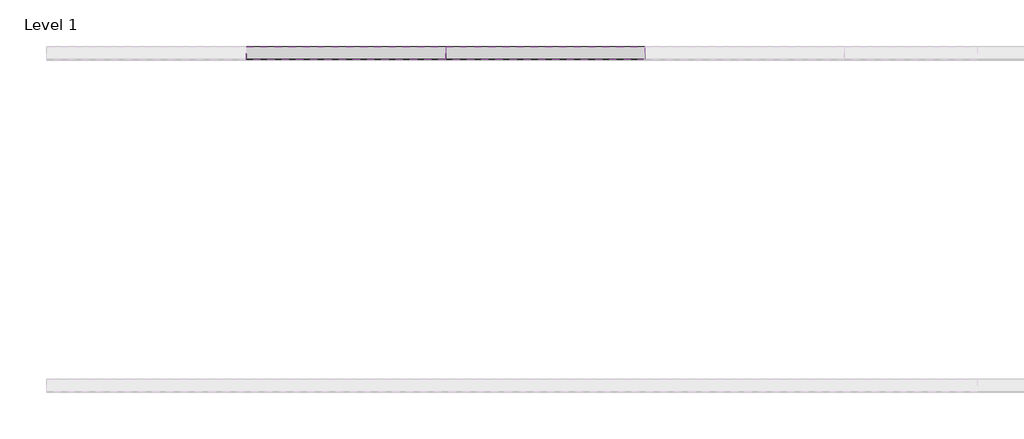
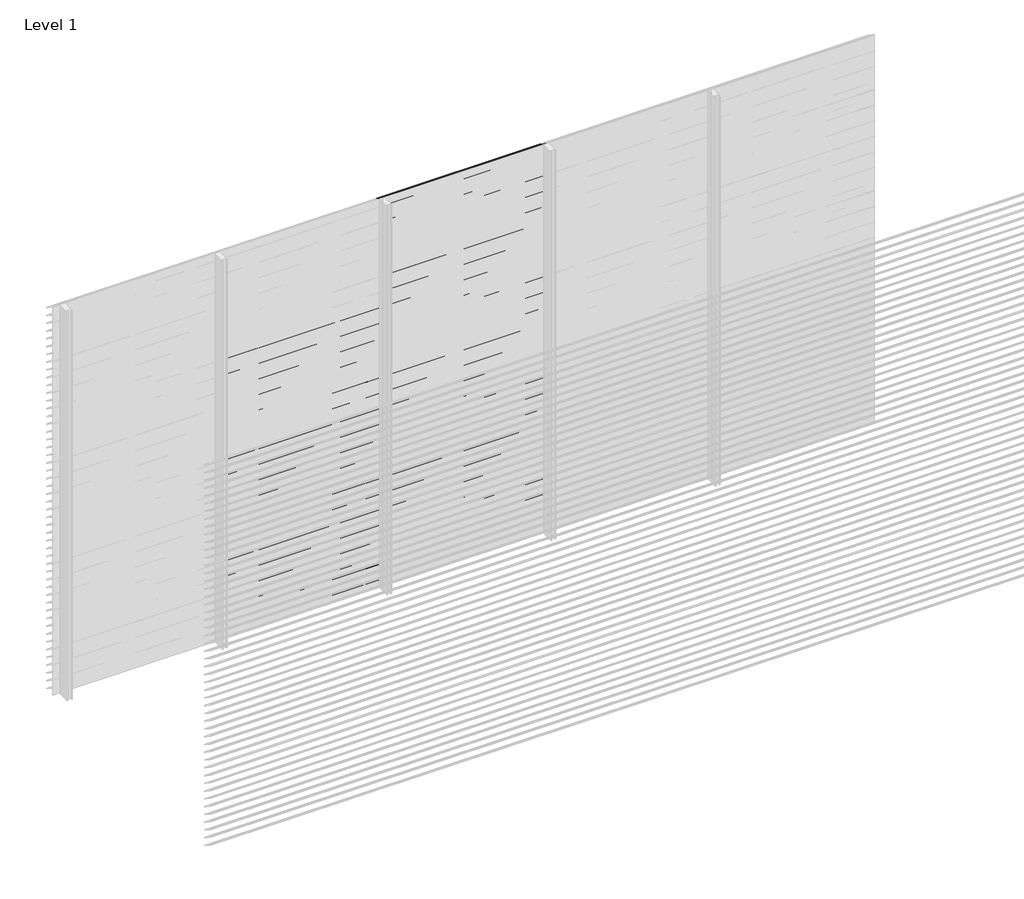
# One storey, part 79 of 153: 84 proxies.
"""IFC4 building model written with IfcOpenShell, lengths in millimetres."""

import ifcopenshell
import ifcopenshell.guid

model = None  # the IFC model being written
_history = None  # IfcOwnerHistory: only IFC2X3 demands one
_inside = {}  # id of a spatial element -> (the spatial element, [elements in it])
_under = {}  # id of a project, library or spatial element -> (it, [spatial elements below it])
_declared = {}  # id of a project -> (the project, [libraries it declares])
_typed = {}  # id of a type object -> (the type object, [elements of that type])
_made_of = {}  # id of a material, layer set ... -> (it, [elements and type objects made of it])


def new_model(schema):
    """Start an empty IFC model of exactly this schema.

    Asked for "IFC4X3", IfcOpenShell would pick the latest addendum, in which some entities
    have other attributes; the version numbers below select the first issue.
    IFC2X3 requires an IfcOwnerHistory on every rooted entity: one is made here for all.
    """
    global model, _history
    if schema == "IFC4X3":
        model = ifcopenshell.file(schema_version=(4, 3, 0, 0))
    else:
        model = ifcopenshell.file(schema=schema)
    _inside.clear()
    _under.clear()
    _declared.clear()
    _typed.clear()
    _made_of.clear()
    _history = None
    if model.schema == "IFC2X3":
        org = make("IfcOrganization", Name="unknown")
        user = make(
            "IfcPersonAndOrganization",
            ThePerson=make("IfcPerson", FamilyName="unknown"),
            TheOrganization=org,
        )
        app = make(
            "IfcApplication",
            ApplicationDeveloper=org,
            Version="unknown",
            ApplicationFullName="unknown",
            ApplicationIdentifier="unknown",
        )
        _history = make(
            "IfcOwnerHistory",
            OwningUser=user,
            OwningApplication=app,
            ChangeAction="ADDED",
            CreationDate=0,
        )
    return model


def make(cls, **values):
    """One entity of the class cls with the attributes given. An attribute that is None is left unset."""
    return model.create_entity(
        cls, **{name: value for name, value in values.items() if value is not None}
    )


def rooted(cls, **values):
    """An entity with a GlobalId (a new one), such as an element, a storey or a relation."""
    return make(cls, GlobalId=ifcopenshell.guid.new(), OwnerHistory=_history, **values)


def si_unit(unit_type, name, prefix=None):
    """IfcSIUnit, for example si_unit("LENGTHUNIT", "METRE", prefix="MILLI")."""
    return make("IfcSIUnit", UnitType=unit_type, Prefix=prefix, Name=name)


def assignment(units):
    """IfcUnitAssignment: the units of a project."""
    return None if units is None else make("IfcUnitAssignment", Units=units)


def point(xyz):
    """IfcCartesianPoint."""
    return None if xyz is None else make("IfcCartesianPoint", Coordinates=xyz)


def direction(xyz):
    """IfcDirection."""
    return None if xyz is None else make("IfcDirection", DirectionRatios=xyz)


def frame(location, z_axis=None, x_axis=None):
    """IfcAxis2Placement3D, a coordinate frame: its origin and axes. An axis left out is left unset."""
    return make(
        "IfcAxis2Placement3D",
        Location=point(location),
        Axis=direction(z_axis),
        RefDirection=direction(x_axis),
    )


def origin():
    """The frame at (0, 0, 0) with its axes left unset."""
    return frame((0.0, 0.0, 0.0))


def place(relative_to, where):
    """IfcLocalPlacement: puts the frame where relative to a parent placement (None: the world)."""
    return make(
        "IfcLocalPlacement", PlacementRelTo=relative_to, RelativePlacement=where
    )


def context(
    kind, dimensions, precision=None, world=None, true_north=None, identifier=None
):
    """IfcGeometricRepresentationContext, for example the 3D "Model" context."""
    return make(
        "IfcGeometricRepresentationContext",
        ContextIdentifier=identifier,
        ContextType=kind,
        CoordinateSpaceDimension=dimensions,
        Precision=precision,
        WorldCoordinateSystem=world,
        TrueNorth=true_north,
    )


def project(units=None, contexts=None):
    """IfcProject with its units and contexts."""
    return rooted(
        "IfcProject",
        Name="project",
        RepresentationContexts=contexts,
        UnitsInContext=assignment(units),
    )


def spatial(cls, under=None, at=None, **own):
    """A site, building, storey or space (cls), placed at a placement, below another one or the project."""
    s = rooted(cls, ObjectPlacement=at, **own)
    if under is not None:
        _under.setdefault(under.id(), (under, []))[1].append(s)
    return s


def polyline(points):
    """IfcPolyline through the points."""
    return make("IfcPolyline", Points=[point(p) for p in points])


def outline(outer, holes=None, kind="AREA"):
    """IfcArbitraryClosedProfileDef: a profile drawn as a closed curve; with holes, ...WithVoids."""
    if holes is None:
        return make("IfcArbitraryClosedProfileDef", ProfileType=kind, OuterCurve=outer)
    return make(
        "IfcArbitraryProfileDefWithVoids",
        ProfileType=kind,
        OuterCurve=outer,
        InnerCurves=holes,
    )


def extrude(swept, where, along, depth):
    """IfcExtrudedAreaSolid: the profile swept, set in the frame where, extruded along a direction by depth."""
    return make(
        "IfcExtrudedAreaSolid",
        SweptArea=swept,
        Position=where,
        ExtrudedDirection=direction(along),
        Depth=depth,
    )


def shape(context_of_items, identifier, shape_type, items):
    """IfcShapeRepresentation: the items that make up one representation, for example the "Body"."""
    return make(
        "IfcShapeRepresentation",
        ContextOfItems=context_of_items,
        RepresentationIdentifier=identifier,
        RepresentationType=shape_type,
        Items=items,
    )


def made_of(thing, what):
    """Note that an element or type object is made of a material, layer set ...; save() writes the relation."""
    if what is not None:
        _made_of.setdefault(what.id(), (what, []))[1].append(thing)
    return thing


def element(
    cls,
    number,
    at=None,
    inside=None,
    cuts=None,
    type_object=None,
    material=None,
    context=None,
    identifier="Body",
    shape_type=None,
    held_by="IfcProductDefinitionShape",
    body=None,
    shapes=None,
    **own,
):
    """One element of the class cls, such as IfcWall. Its Tag is "e" and its number.

    at: its placement. inside: the storey or other place that contains it. cuts: it is an
    opening in that element (IfcRelVoidsElement). A single representation is given by context,
    identifier, shape_type and body (its items); several are given by shapes. held_by: the class
    of the entity that holds the representations. save() writes the other relations.
    """
    e = rooted(cls, Tag="e%d" % number, ObjectPlacement=at, **own)
    if body is not None:
        shapes = [shape(context, identifier, shape_type, body)]
    if shapes is not None:
        e.Representation = make(held_by, Representations=shapes)
    if inside is not None:
        _inside.setdefault(inside.id(), (inside, []))[1].append(e)
    if cuts is not None:
        rooted(
            "IfcRelVoidsElement", RelatingBuildingElement=cuts, RelatedOpeningElement=e
        )
    if type_object is not None:
        _typed.setdefault(type_object.id(), (type_object, []))[1].append(e)
    return made_of(e, material)


def aggregate(whole, parts):
    """IfcRelAggregates: a whole, such as a stair, and the parts it consists of."""
    return rooted("IfcRelAggregates", RelatingObject=whole, RelatedObjects=parts)


def save(model, path):
    """Write the relations noted so far, then the file.

    IfcRelAggregates (storeys below a building ...), IfcRelContainedInSpatialStructure (elements
    in a storey), IfcRelDefinesByType, IfcRelAssociatesMaterial and IfcRelDeclares: one each for
    every whole, place, type object, material and project.
    """
    for whole, parts in _under.values():
        aggregate(whole, parts)
    for where, things in _inside.values():
        rooted(
            "IfcRelContainedInSpatialStructure",
            RelatedElements=things,
            RelatingStructure=where,
        )
    for kind, things in _typed.values():
        rooted("IfcRelDefinesByType", RelatedObjects=things, RelatingType=kind)
    for what, things in _made_of.values():
        rooted("IfcRelAssociatesMaterial", RelatedObjects=things, RelatingMaterial=what)
    for by, libraries in _declared.values():
        rooted("IfcRelDeclares", RelatingContext=by, RelatedDefinitions=libraries)
    model.write(path)


model = new_model("IFC4")

# Units and contexts
model_context = context("Model", 3, world=origin())
ifc_project = project(units=[si_unit("LENGTHUNIT", "METRE", prefix="MILLI")], contexts=[model_context])

# Site, building, storey
site = spatial("IfcSite", under=ifc_project)
building = spatial("IfcBuilding", under=site)
storey = spatial("IfcBuildingStorey", under=building, Name="Level 1", Elevation=0.0)

# Proxies
placement = place(None, origin())
element("IfcBuildingElementProxy", 1, Name="Wall Sweeps", at=placement, inside=storey, context=model_context, shape_type="SweptSolid", body=[
    extrude(outline(polyline([(51561.0540136, 2166.0), (51561.0540136, 2160.0), (51559.8040136, 2160.7216933), (51559.8040136, 2165.2538091), (51483.0540136, 2213.9915103), (51483.0540136, 2220.0), (51484.3040136, 2220.0), (51484.3040136, 2214.7377012), (51561.0540136, 2166.0)])), frame((1666.6208099, 0.0, 0.0), z_axis=(1.0, 0.0, 0.0), x_axis=(0.0, 1.0, 0.0)), (0.0, 0.0, 1.0), 1199.9999999),
])
element("IfcBuildingElementProxy", 2, Name="Wall Sweeps", at=placement, inside=storey, context=model_context, shape_type="SweptSolid", body=[
    extrude(outline(polyline([(51561.0540136, 2106.0), (51561.0540136, 2100.0), (51559.8040136, 2100.7216933), (51559.8040136, 2105.2538091), (51483.0540136, 2153.9915103), (51483.0540136, 2160.0), (51484.3040136, 2160.0), (51484.3040136, 2154.7377012), (51561.0540136, 2106.0)])), frame((1666.6208099, 0.0, 0.0), z_axis=(1.0, 0.0, 0.0), x_axis=(0.0, 1.0, 0.0)), (0.0, 0.0, 1.0), 1199.9999999),
])
element("IfcBuildingElementProxy", 3, Name="Wall Sweeps", at=placement, inside=storey, context=model_context, shape_type="SweptSolid", body=[
    extrude(outline(polyline([(51561.0540136, 2046.0), (51561.0540136, 2040.0), (51559.8040136, 2040.7216933), (51559.8040136, 2045.2538091), (51483.0540136, 2093.9915103), (51483.0540136, 2100.0), (51484.3040136, 2100.0), (51484.3040136, 2094.7377012), (51561.0540136, 2046.0)])), frame((1666.6208099, 0.0, 0.0), z_axis=(1.0, 0.0, 0.0), x_axis=(0.0, 1.0, 0.0)), (0.0, 0.0, 1.0), 1199.9999999),
])
element("IfcBuildingElementProxy", 4, Name="Wall Sweeps", at=placement, inside=storey, context=model_context, shape_type="SweptSolid", body=[
    extrude(outline(polyline([(51561.0540136, 1986.0), (51561.0540136, 1980.0), (51559.8040136, 1980.7216933), (51559.8040136, 1985.2538091), (51483.0540136, 2033.9915103), (51483.0540136, 2040.0), (51484.3040136, 2040.0), (51484.3040136, 2034.7377012), (51561.0540136, 1986.0)])), frame((1666.6208099, 0.0, 0.0), z_axis=(1.0, 0.0, 0.0), x_axis=(0.0, 1.0, 0.0)), (0.0, 0.0, 1.0), 1199.9999999),
])
element("IfcBuildingElementProxy", 5, Name="Wall Sweeps", at=placement, inside=storey, context=model_context, shape_type="SweptSolid", body=[
    extrude(outline(polyline([(51561.0540136, 1926.0), (51561.0540136, 1920.0), (51559.8040136, 1920.7216933), (51559.8040136, 1925.2538091), (51483.0540136, 1973.9915103), (51483.0540136, 1980.0), (51484.3040136, 1980.0), (51484.3040136, 1974.7377012), (51561.0540136, 1926.0)])), frame((1666.6208099, 0.0, 0.0), z_axis=(1.0, 0.0, 0.0), x_axis=(0.0, 1.0, 0.0)), (0.0, 0.0, 1.0), 1199.9999999),
])
element("IfcBuildingElementProxy", 6, Name="Wall Sweeps", at=placement, inside=storey, context=model_context, shape_type="SweptSolid", body=[
    extrude(outline(polyline([(51561.0540136, 1866.0), (51561.0540136, 1860.0), (51559.8040136, 1860.7216933), (51559.8040136, 1865.2538091), (51483.0540136, 1913.9915103), (51483.0540136, 1920.0), (51484.3040136, 1920.0), (51484.3040136, 1914.7377012), (51561.0540136, 1866.0)])), frame((1666.6208099, 0.0, 0.0), z_axis=(1.0, 0.0, 0.0), x_axis=(0.0, 1.0, 0.0)), (0.0, 0.0, 1.0), 1199.9999999),
])
element("IfcBuildingElementProxy", 7, Name="Wall Sweeps", at=placement, inside=storey, context=model_context, shape_type="SweptSolid", body=[
    extrude(outline(polyline([(51561.0540136, 1806.0), (51561.0540136, 1800.0), (51559.8040136, 1800.7216933), (51559.8040136, 1805.2538091), (51483.0540136, 1853.9915103), (51483.0540136, 1860.0), (51484.3040136, 1860.0), (51484.3040136, 1854.7377012), (51561.0540136, 1806.0)])), frame((1666.6208099, 0.0, 0.0), z_axis=(1.0, 0.0, 0.0), x_axis=(0.0, 1.0, 0.0)), (0.0, 0.0, 1.0), 1199.9999999),
])
element("IfcBuildingElementProxy", 8, Name="Wall Sweeps", at=placement, inside=storey, context=model_context, shape_type="SweptSolid", body=[
    extrude(outline(polyline([(51561.0540136, 1746.0), (51561.0540136, 1740.0), (51559.8040136, 1740.7216933), (51559.8040136, 1745.2538091), (51483.0540136, 1793.9915103), (51483.0540136, 1800.0), (51484.3040136, 1800.0), (51484.3040136, 1794.7377012), (51561.0540136, 1746.0)])), frame((1666.6208099, 0.0, 0.0), z_axis=(1.0, 0.0, 0.0), x_axis=(0.0, 1.0, 0.0)), (0.0, 0.0, 1.0), 1199.9999999),
])
element("IfcBuildingElementProxy", 9, Name="Wall Sweeps", at=placement, inside=storey, context=model_context, shape_type="SweptSolid", body=[
    extrude(outline(polyline([(51561.0540136, 1686.0), (51561.0540136, 1680.0), (51559.8040136, 1680.7216933), (51559.8040136, 1685.2538091), (51483.0540136, 1733.9915103), (51483.0540136, 1740.0), (51484.3040136, 1740.0), (51484.3040136, 1734.7377012), (51561.0540136, 1686.0)])), frame((1666.6208099, 0.0, 0.0), z_axis=(1.0, 0.0, 0.0), x_axis=(0.0, 1.0, 0.0)), (0.0, 0.0, 1.0), 1199.9999999),
])
element("IfcBuildingElementProxy", 10, Name="Wall Sweeps", at=placement, inside=storey, context=model_context, shape_type="SweptSolid", body=[
    extrude(outline(polyline([(51561.0540136, 1626.0), (51561.0540136, 1620.0), (51559.8040136, 1620.7216933), (51559.8040136, 1625.2538091), (51483.0540136, 1673.9915103), (51483.0540136, 1680.0), (51484.3040136, 1680.0), (51484.3040136, 1674.7377012), (51561.0540136, 1626.0)])), frame((1666.6208099, 0.0, 0.0), z_axis=(1.0, 0.0, 0.0), x_axis=(0.0, 1.0, 0.0)), (0.0, 0.0, 1.0), 1199.9999999),
])
element("IfcBuildingElementProxy", 11, Name="Wall Sweeps", at=placement, inside=storey, context=model_context, shape_type="SweptSolid", body=[
    extrude(outline(polyline([(51561.0540136, 1566.0), (51561.0540136, 1560.0), (51559.8040136, 1560.7216933), (51559.8040136, 1565.2538091), (51483.0540136, 1613.9915103), (51483.0540136, 1620.0), (51484.3040136, 1620.0), (51484.3040136, 1614.7377012), (51561.0540136, 1566.0)])), frame((1666.6208099, 0.0, 0.0), z_axis=(1.0, 0.0, 0.0), x_axis=(0.0, 1.0, 0.0)), (0.0, 0.0, 1.0), 1199.9999999),
])
element("IfcBuildingElementProxy", 12, Name="Wall Sweeps", at=placement, inside=storey, context=model_context, shape_type="SweptSolid", body=[
    extrude(outline(polyline([(51561.0540136, 1506.0), (51561.0540136, 1500.0), (51559.8040136, 1500.7216933), (51559.8040136, 1505.2538091), (51483.0540136, 1553.9915103), (51483.0540136, 1560.0), (51484.3040136, 1560.0), (51484.3040136, 1554.7377012), (51561.0540136, 1506.0)])), frame((1666.6208099, 0.0, 0.0), z_axis=(1.0, 0.0, 0.0), x_axis=(0.0, 1.0, 0.0)), (0.0, 0.0, 1.0), 1199.9999999),
])
element("IfcBuildingElementProxy", 13, Name="Wall Sweeps", at=placement, inside=storey, context=model_context, shape_type="SweptSolid", body=[
    extrude(outline(polyline([(51561.0540136, 1446.0), (51561.0540136, 1440.0), (51559.8040136, 1440.7216933), (51559.8040136, 1445.2538091), (51483.0540136, 1493.9915103), (51483.0540136, 1500.0), (51484.3040136, 1500.0), (51484.3040136, 1494.7377012), (51561.0540136, 1446.0)])), frame((1666.6208099, 0.0, 0.0), z_axis=(1.0, 0.0, 0.0), x_axis=(0.0, 1.0, 0.0)), (0.0, 0.0, 1.0), 1199.9999999),
])
element("IfcBuildingElementProxy", 14, Name="Wall Sweeps", at=placement, inside=storey, context=model_context, shape_type="SweptSolid", body=[
    extrude(outline(polyline([(51561.0540136, 1386.0), (51561.0540136, 1380.0), (51559.8040136, 1380.7216933), (51559.8040136, 1385.2538091), (51483.0540136, 1433.9915103), (51483.0540136, 1440.0), (51484.3040136, 1440.0), (51484.3040136, 1434.7377012), (51561.0540136, 1386.0)])), frame((1666.6208099, 0.0, 0.0), z_axis=(1.0, 0.0, 0.0), x_axis=(0.0, 1.0, 0.0)), (0.0, 0.0, 1.0), 1199.9999999),
])
element("IfcBuildingElementProxy", 15, Name="Wall Sweeps", at=placement, inside=storey, context=model_context, shape_type="SweptSolid", body=[
    extrude(outline(polyline([(51561.0540136, 1326.0), (51561.0540136, 1320.0), (51559.8040136, 1320.7216933), (51559.8040136, 1325.2538091), (51483.0540136, 1373.9915103), (51483.0540136, 1380.0), (51484.3040136, 1380.0), (51484.3040136, 1374.7377012), (51561.0540136, 1326.0)])), frame((1666.6208099, 0.0, 0.0), z_axis=(1.0, 0.0, 0.0), x_axis=(0.0, 1.0, 0.0)), (0.0, 0.0, 1.0), 1199.9999999),
])
element("IfcBuildingElementProxy", 16, Name="Wall Sweeps", at=placement, inside=storey, context=model_context, shape_type="SweptSolid", body=[
    extrude(outline(polyline([(51561.0540136, 1266.0), (51561.0540136, 1260.0), (51559.8040136, 1260.7216933), (51559.8040136, 1265.2538091), (51483.0540136, 1313.9915103), (51483.0540136, 1320.0), (51484.3040136, 1320.0), (51484.3040136, 1314.7377012), (51561.0540136, 1266.0)])), frame((1666.6208099, 0.0, 0.0), z_axis=(1.0, 0.0, 0.0), x_axis=(0.0, 1.0, 0.0)), (0.0, 0.0, 1.0), 1199.9999999),
])
element("IfcBuildingElementProxy", 17, Name="Wall Sweeps", at=placement, inside=storey, context=model_context, shape_type="SweptSolid", body=[
    extrude(outline(polyline([(51561.0540136, 1206.0), (51561.0540136, 1200.0), (51559.8040136, 1200.7216933), (51559.8040136, 1205.2538091), (51483.0540136, 1253.9915103), (51483.0540136, 1260.0), (51484.3040136, 1260.0), (51484.3040136, 1254.7377012), (51561.0540136, 1206.0)])), frame((1666.6208099, 0.0, 0.0), z_axis=(1.0, 0.0, 0.0), x_axis=(0.0, 1.0, 0.0)), (0.0, 0.0, 1.0), 1199.9999999),
])
element("IfcBuildingElementProxy", 18, Name="Wall Sweeps", at=placement, inside=storey, context=model_context, shape_type="SweptSolid", body=[
    extrude(outline(polyline([(51561.0540136, 1146.0), (51561.0540136, 1140.0), (51559.8040136, 1140.7216933), (51559.8040136, 1145.2538091), (51483.0540136, 1193.9915103), (51483.0540136, 1200.0), (51484.3040136, 1200.0), (51484.3040136, 1194.7377012), (51561.0540136, 1146.0)])), frame((1666.6208099, 0.0, 0.0), z_axis=(1.0, 0.0, 0.0), x_axis=(0.0, 1.0, 0.0)), (0.0, 0.0, 1.0), 1199.9999999),
])
element("IfcBuildingElementProxy", 19, Name="Wall Sweeps", at=placement, inside=storey, context=model_context, shape_type="SweptSolid", body=[
    extrude(outline(polyline([(51561.0540136, 1086.0), (51561.0540136, 1080.0), (51559.8040136, 1080.7216933), (51559.8040136, 1085.2538091), (51483.0540136, 1133.9915103), (51483.0540136, 1140.0), (51484.3040136, 1140.0), (51484.3040136, 1134.7377012), (51561.0540136, 1086.0)])), frame((1666.6208099, 0.0, 0.0), z_axis=(1.0, 0.0, 0.0), x_axis=(0.0, 1.0, 0.0)), (0.0, 0.0, 1.0), 1199.9999999),
])
element("IfcBuildingElementProxy", 20, Name="Wall Sweeps", at=placement, inside=storey, context=model_context, shape_type="SweptSolid", body=[
    extrude(outline(polyline([(51561.0540136, 1026.0), (51561.0540136, 1020.0), (51559.8040136, 1020.7216933), (51559.8040136, 1025.2538091), (51483.0540136, 1073.9915103), (51483.0540136, 1080.0), (51484.3040136, 1080.0), (51484.3040136, 1074.7377012), (51561.0540136, 1026.0)])), frame((1666.6208099, 0.0, 0.0), z_axis=(1.0, 0.0, 0.0), x_axis=(0.0, 1.0, 0.0)), (0.0, 0.0, 1.0), 1199.9999999),
])
element("IfcBuildingElementProxy", 21, Name="Wall Sweeps", at=placement, inside=storey, context=model_context, shape_type="SweptSolid", body=[
    extrude(outline(polyline([(51561.0540136, 966.0), (51561.0540136, 960.0), (51559.8040136, 960.7216933), (51559.8040136, 965.2538091), (51483.0540136, 1013.9915103), (51483.0540136, 1020.0), (51484.3040136, 1020.0), (51484.3040136, 1014.7377012), (51561.0540136, 966.0)])), frame((1666.6208099, 0.0, 0.0), z_axis=(1.0, 0.0, 0.0), x_axis=(0.0, 1.0, 0.0)), (0.0, 0.0, 1.0), 1199.9999999),
])
element("IfcBuildingElementProxy", 22, Name="Wall Sweeps", at=placement, inside=storey, context=model_context, shape_type="SweptSolid", body=[
    extrude(outline(polyline([(51561.0540136, 906.0), (51561.0540136, 900.0), (51559.8040136, 900.7216933), (51559.8040136, 905.2538091), (51483.0540136, 953.9915103), (51483.0540136, 960.0), (51484.3040136, 960.0), (51484.3040136, 954.7377012), (51561.0540136, 906.0)])), frame((1666.6208099, 0.0, 0.0), z_axis=(1.0, 0.0, 0.0), x_axis=(0.0, 1.0, 0.0)), (0.0, 0.0, 1.0), 1199.9999999),
])
element("IfcBuildingElementProxy", 23, Name="Wall Sweeps", at=placement, inside=storey, context=model_context, shape_type="SweptSolid", body=[
    extrude(outline(polyline([(51561.0540136, 846.0), (51561.0540136, 840.0), (51559.8040136, 840.7216933), (51559.8040136, 845.2538091), (51483.0540136, 893.9915103), (51483.0540136, 900.0), (51484.3040136, 900.0), (51484.3040136, 894.7377012), (51561.0540136, 846.0)])), frame((1666.6208099, 0.0, 0.0), z_axis=(1.0, 0.0, 0.0), x_axis=(0.0, 1.0, 0.0)), (0.0, 0.0, 1.0), 1199.9999999),
])
element("IfcBuildingElementProxy", 24, Name="Wall Sweeps", at=placement, inside=storey, context=model_context, shape_type="SweptSolid", body=[
    extrude(outline(polyline([(51561.0540136, 786.0), (51561.0540136, 780.0), (51559.8040136, 780.7216933), (51559.8040136, 785.2538091), (51483.0540136, 833.9915103), (51483.0540136, 840.0), (51484.3040136, 840.0), (51484.3040136, 834.7377012), (51561.0540136, 786.0)])), frame((1666.6208099, 0.0, 0.0), z_axis=(1.0, 0.0, 0.0), x_axis=(0.0, 1.0, 0.0)), (0.0, 0.0, 1.0), 1199.9999999),
])
element("IfcBuildingElementProxy", 25, Name="Wall Sweeps", at=placement, inside=storey, context=model_context, shape_type="SweptSolid", body=[
    extrude(outline(polyline([(51561.0540136, 726.0), (51561.0540136, 720.0), (51559.8040136, 720.7216933), (51559.8040136, 725.2538091), (51483.0540136, 773.9915103), (51483.0540136, 780.0), (51484.3040136, 780.0), (51484.3040136, 774.7377012), (51561.0540136, 726.0)])), frame((1666.6208099, 0.0, 0.0), z_axis=(1.0, 0.0, 0.0), x_axis=(0.0, 1.0, 0.0)), (0.0, 0.0, 1.0), 1199.9999999),
])
element("IfcBuildingElementProxy", 26, Name="Wall Sweeps", at=placement, inside=storey, context=model_context, shape_type="SweptSolid", body=[
    extrude(outline(polyline([(51561.0540136, 666.0), (51561.0540136, 660.0), (51559.8040136, 660.7216933), (51559.8040136, 665.2538091), (51483.0540136, 713.9915103), (51483.0540136, 720.0), (51484.3040136, 720.0), (51484.3040136, 714.7377012), (51561.0540136, 666.0)])), frame((1666.6208099, 0.0, 0.0), z_axis=(1.0, 0.0, 0.0), x_axis=(0.0, 1.0, 0.0)), (0.0, 0.0, 1.0), 1199.9999999),
])
element("IfcBuildingElementProxy", 27, Name="Wall Sweeps", at=placement, inside=storey, context=model_context, shape_type="SweptSolid", body=[
    extrude(outline(polyline([(51561.0540136, 606.0), (51561.0540136, 600.0), (51559.8040136, 600.7216933), (51559.8040136, 605.2538091), (51483.0540136, 653.9915103), (51483.0540136, 660.0), (51484.3040136, 660.0), (51484.3040136, 654.7377012), (51561.0540136, 606.0)])), frame((1666.6208099, 0.0, 0.0), z_axis=(1.0, 0.0, 0.0), x_axis=(0.0, 1.0, 0.0)), (0.0, 0.0, 1.0), 1199.9999999),
])
element("IfcBuildingElementProxy", 28, Name="Wall Sweeps", at=placement, inside=storey, context=model_context, shape_type="SweptSolid", body=[
    extrude(outline(polyline([(51561.0540136, 546.0), (51561.0540136, 540.0), (51559.8040136, 540.7216933), (51559.8040136, 545.2538091), (51483.0540136, 593.9915103), (51483.0540136, 600.0), (51484.3040136, 600.0), (51484.3040136, 594.7377012), (51561.0540136, 546.0)])), frame((1666.6208099, 0.0, 0.0), z_axis=(1.0, 0.0, 0.0), x_axis=(0.0, 1.0, 0.0)), (0.0, 0.0, 1.0), 1199.9999999),
])
element("IfcBuildingElementProxy", 29, Name="Wall Sweeps", at=placement, inside=storey, context=model_context, shape_type="SweptSolid", body=[
    extrude(outline(polyline([(51561.0540136, 486.0), (51561.0540136, 480.0), (51559.8040136, 480.7216933), (51559.8040136, 485.2538091), (51483.0540136, 533.9915103), (51483.0540136, 540.0), (51484.3040136, 540.0), (51484.3040136, 534.7377012), (51561.0540136, 486.0)])), frame((1666.6208099, 0.0, 0.0), z_axis=(1.0, 0.0, 0.0), x_axis=(0.0, 1.0, 0.0)), (0.0, 0.0, 1.0), 1199.9999999),
])
element("IfcBuildingElementProxy", 30, Name="Wall Sweeps", at=placement, inside=storey, context=model_context, shape_type="SweptSolid", body=[
    extrude(outline(polyline([(51561.0540136, 426.0), (51561.0540136, 420.0), (51559.8040136, 420.7216933), (51559.8040136, 425.2538091), (51483.0540136, 473.9915103), (51483.0540136, 480.0), (51484.3040136, 480.0), (51484.3040136, 474.7377012), (51561.0540136, 426.0)])), frame((1666.6208099, 0.0, 0.0), z_axis=(1.0, 0.0, 0.0), x_axis=(0.0, 1.0, 0.0)), (0.0, 0.0, 1.0), 1199.9999999),
])
element("IfcBuildingElementProxy", 31, Name="Wall Sweeps", at=placement, inside=storey, context=model_context, shape_type="SweptSolid", body=[
    extrude(outline(polyline([(51561.0540136, 366.0), (51561.0540136, 360.0), (51559.8040136, 360.7216933), (51559.8040136, 365.2538091), (51483.0540136, 413.9915103), (51483.0540136, 420.0), (51484.3040136, 420.0), (51484.3040136, 414.7377012), (51561.0540136, 366.0)])), frame((1666.6208099, 0.0, 0.0), z_axis=(1.0, 0.0, 0.0), x_axis=(0.0, 1.0, 0.0)), (0.0, 0.0, 1.0), 1199.9999999),
])
element("IfcBuildingElementProxy", 32, Name="Wall Sweeps", at=placement, inside=storey, context=model_context, shape_type="SweptSolid", body=[
    extrude(outline(polyline([(51561.0540136, 306.0), (51561.0540136, 300.0), (51559.8040136, 300.7216933), (51559.8040136, 305.2538091), (51483.0540136, 353.9915103), (51483.0540136, 360.0), (51484.3040136, 360.0), (51484.3040136, 354.7377012), (51561.0540136, 306.0)])), frame((1666.6208099, 0.0, 0.0), z_axis=(1.0, 0.0, 0.0), x_axis=(0.0, 1.0, 0.0)), (0.0, 0.0, 1.0), 1199.9999999),
])
element("IfcBuildingElementProxy", 33, Name="Wall Sweeps", at=placement, inside=storey, context=model_context, shape_type="SweptSolid", body=[
    extrude(outline(polyline([(51561.0540136, 246.0), (51561.0540136, 240.0), (51559.8040136, 240.7216933), (51559.8040136, 245.2538091), (51483.0540136, 293.9915103), (51483.0540136, 300.0), (51484.3040136, 300.0), (51484.3040136, 294.7377012), (51561.0540136, 246.0)])), frame((1666.6208099, 0.0, 0.0), z_axis=(1.0, 0.0, 0.0), x_axis=(0.0, 1.0, 0.0)), (0.0, 0.0, 1.0), 1199.9999999),
])
element("IfcBuildingElementProxy", 34, Name="Wall Sweeps", at=placement, inside=storey, context=model_context, shape_type="SweptSolid", body=[
    extrude(outline(polyline([(51561.0540136, 186.0), (51561.0540136, 180.0), (51559.8040136, 180.7216933), (51559.8040136, 185.2538091), (51483.0540136, 233.9915103), (51483.0540136, 240.0), (51484.3040136, 240.0), (51484.3040136, 234.7377012), (51561.0540136, 186.0)])), frame((1666.6208099, 0.0, 0.0), z_axis=(1.0, 0.0, 0.0), x_axis=(0.0, 1.0, 0.0)), (0.0, 0.0, 1.0), 1199.9999999),
])
element("IfcBuildingElementProxy", 35, Name="Wall Sweeps", at=placement, inside=storey, context=model_context, shape_type="SweptSolid", body=[
    extrude(outline(polyline([(51561.0540136, 126.0), (51561.0540136, 120.0), (51559.8040136, 120.7216933), (51559.8040136, 125.2538091), (51483.0540136, 173.9915103), (51483.0540136, 180.0), (51484.3040136, 180.0), (51484.3040136, 174.7377012), (51561.0540136, 126.0)])), frame((1666.6208099, 0.0, 0.0), z_axis=(1.0, 0.0, 0.0), x_axis=(0.0, 1.0, 0.0)), (0.0, 0.0, 1.0), 1199.9999999),
])
element("IfcBuildingElementProxy", 36, Name="Wall Sweeps", at=placement, inside=storey, context=model_context, shape_type="SweptSolid", body=[
    extrude(outline(polyline([(51561.0540136, 66.0), (51561.0540136, 60.0), (51559.8040136, 60.7216933), (51559.8040136, 65.2538091), (51483.0540136, 113.9915103), (51483.0540136, 120.0), (51484.3040136, 120.0), (51484.3040136, 114.7377012), (51561.0540136, 66.0)])), frame((1666.6208099, 0.0, 0.0), z_axis=(1.0, 0.0, 0.0), x_axis=(0.0, 1.0, 0.0)), (0.0, 0.0, 1.0), 1199.9999999),
])
element("IfcBuildingElementProxy", 37, Name="Wall Sweeps", at=placement, inside=storey, context=model_context, shape_type="SweptSolid", body=[
    extrude(outline(polyline([(51561.0540136, 6.0), (51561.0540136, 0.0), (51559.8040136, 0.7216933), (51559.8040136, 5.2538091), (51483.0540136, 53.9915103), (51483.0540136, 60.0), (51484.3040136, 60.0), (51484.3040136, 54.7377012), (51561.0540136, 6.0)])), frame((1666.6208099, 0.0, 0.0), z_axis=(1.0, 0.0, 0.0), x_axis=(0.0, 1.0, 0.0)), (0.0, 0.0, 1.0), 1199.9999999),
])
element("IfcBuildingElementProxy", 38, Name="Wall Sweeps", at=placement, inside=storey, context=model_context, shape_type="SweptSolid", body=[
    extrude(outline(polyline([(51561.0540136, 2946.0), (51561.0540136, 2940.0), (51559.8040136, 2940.7216933), (51559.8040136, 2945.2538091), (51483.0540136, 2993.9915103), (51483.0540136, 3000.0), (51484.3040136, 3000.0), (51484.3040136, 2994.7377012), (51561.0540136, 2946.0)])), frame((2866.6208097, 0.0, 0.0), z_axis=(1.0, 0.0, 0.0), x_axis=(0.0, 1.0, 0.0)), (0.0, 0.0, 1.0), 1199.9999999),
])
element("IfcBuildingElementProxy", 39, Name="Wall Sweeps", at=placement, inside=storey, context=model_context, shape_type="SweptSolid", body=[
    extrude(outline(polyline([(51561.0540136, 2886.0), (51561.0540136, 2880.0), (51559.8040136, 2880.7216933), (51559.8040136, 2885.2538091), (51483.0540136, 2933.9915103), (51483.0540136, 2940.0), (51484.3040136, 2940.0), (51484.3040136, 2934.7377012), (51561.0540136, 2886.0)])), frame((2866.6208097, 0.0, 0.0), z_axis=(1.0, 0.0, 0.0), x_axis=(0.0, 1.0, 0.0)), (0.0, 0.0, 1.0), 1199.9999999),
])
element("IfcBuildingElementProxy", 40, Name="Wall Sweeps", at=placement, inside=storey, context=model_context, shape_type="SweptSolid", body=[
    extrude(outline(polyline([(51561.0540136, 2826.0), (51561.0540136, 2820.0), (51559.8040136, 2820.7216933), (51559.8040136, 2825.2538091), (51483.0540136, 2873.9915103), (51483.0540136, 2880.0), (51484.3040136, 2880.0), (51484.3040136, 2874.7377012), (51561.0540136, 2826.0)])), frame((2866.6208097, 0.0, 0.0), z_axis=(1.0, 0.0, 0.0), x_axis=(0.0, 1.0, 0.0)), (0.0, 0.0, 1.0), 1199.9999999),
])
element("IfcBuildingElementProxy", 41, Name="Wall Sweeps", at=placement, inside=storey, context=model_context, shape_type="SweptSolid", body=[
    extrude(outline(polyline([(51561.0540136, 2766.0), (51561.0540136, 2760.0), (51559.8040136, 2760.7216933), (51559.8040136, 2765.2538091), (51483.0540136, 2813.9915103), (51483.0540136, 2820.0), (51484.3040136, 2820.0), (51484.3040136, 2814.7377012), (51561.0540136, 2766.0)])), frame((2866.6208097, 0.0, 0.0), z_axis=(1.0, 0.0, 0.0), x_axis=(0.0, 1.0, 0.0)), (0.0, 0.0, 1.0), 1199.9999999),
])
element("IfcBuildingElementProxy", 42, Name="Wall Sweeps", at=placement, inside=storey, context=model_context, shape_type="SweptSolid", body=[
    extrude(outline(polyline([(51561.0540136, 2706.0), (51561.0540136, 2700.0), (51559.8040136, 2700.7216933), (51559.8040136, 2705.2538091), (51483.0540136, 2753.9915103), (51483.0540136, 2760.0), (51484.3040136, 2760.0), (51484.3040136, 2754.7377012), (51561.0540136, 2706.0)])), frame((2866.6208097, 0.0, 0.0), z_axis=(1.0, 0.0, 0.0), x_axis=(0.0, 1.0, 0.0)), (0.0, 0.0, 1.0), 1199.9999999),
])
element("IfcBuildingElementProxy", 43, Name="Wall Sweeps", at=placement, inside=storey, context=model_context, shape_type="SweptSolid", body=[
    extrude(outline(polyline([(51561.0540136, 2646.0), (51561.0540136, 2640.0), (51559.8040136, 2640.7216933), (51559.8040136, 2645.2538091), (51483.0540136, 2693.9915103), (51483.0540136, 2700.0), (51484.3040136, 2700.0), (51484.3040136, 2694.7377012), (51561.0540136, 2646.0)])), frame((2866.6208097, 0.0, 0.0), z_axis=(1.0, 0.0, 0.0), x_axis=(0.0, 1.0, 0.0)), (0.0, 0.0, 1.0), 1199.9999999),
])
element("IfcBuildingElementProxy", 44, Name="Wall Sweeps", at=placement, inside=storey, context=model_context, shape_type="SweptSolid", body=[
    extrude(outline(polyline([(51561.0540136, 2586.0), (51561.0540136, 2580.0), (51559.8040136, 2580.7216933), (51559.8040136, 2585.2538091), (51483.0540136, 2633.9915103), (51483.0540136, 2640.0), (51484.3040136, 2640.0), (51484.3040136, 2634.7377012), (51561.0540136, 2586.0)])), frame((2866.6208097, 0.0, 0.0), z_axis=(1.0, 0.0, 0.0), x_axis=(0.0, 1.0, 0.0)), (0.0, 0.0, 1.0), 1199.9999999),
])
element("IfcBuildingElementProxy", 45, Name="Wall Sweeps", at=placement, inside=storey, context=model_context, shape_type="SweptSolid", body=[
    extrude(outline(polyline([(51561.0540136, 2526.0), (51561.0540136, 2520.0), (51559.8040136, 2520.7216933), (51559.8040136, 2525.2538091), (51483.0540136, 2573.9915103), (51483.0540136, 2580.0), (51484.3040136, 2580.0), (51484.3040136, 2574.7377012), (51561.0540136, 2526.0)])), frame((2866.6208097, 0.0, 0.0), z_axis=(1.0, 0.0, 0.0), x_axis=(0.0, 1.0, 0.0)), (0.0, 0.0, 1.0), 1199.9999999),
])
element("IfcBuildingElementProxy", 46, Name="Wall Sweeps", at=placement, inside=storey, context=model_context, shape_type="SweptSolid", body=[
    extrude(outline(polyline([(51561.0540136, 2466.0), (51561.0540136, 2460.0), (51559.8040136, 2460.7216933), (51559.8040136, 2465.2538091), (51483.0540136, 2513.9915103), (51483.0540136, 2520.0), (51484.3040136, 2520.0), (51484.3040136, 2514.7377012), (51561.0540136, 2466.0)])), frame((2866.6208097, 0.0, 0.0), z_axis=(1.0, 0.0, 0.0), x_axis=(0.0, 1.0, 0.0)), (0.0, 0.0, 1.0), 1199.9999999),
])
element("IfcBuildingElementProxy", 47, Name="Wall Sweeps", at=placement, inside=storey, context=model_context, shape_type="SweptSolid", body=[
    extrude(outline(polyline([(51561.0540136, 2406.0), (51561.0540136, 2400.0), (51559.8040136, 2400.7216933), (51559.8040136, 2405.2538091), (51483.0540136, 2453.9915103), (51483.0540136, 2460.0), (51484.3040136, 2460.0), (51484.3040136, 2454.7377012), (51561.0540136, 2406.0)])), frame((2866.6208097, 0.0, 0.0), z_axis=(1.0, 0.0, 0.0), x_axis=(0.0, 1.0, 0.0)), (0.0, 0.0, 1.0), 1199.9999999),
])
element("IfcBuildingElementProxy", 48, Name="Wall Sweeps", at=placement, inside=storey, context=model_context, shape_type="SweptSolid", body=[
    extrude(outline(polyline([(51561.0540136, 2346.0), (51561.0540136, 2340.0), (51559.8040136, 2340.7216933), (51559.8040136, 2345.2538091), (51483.0540136, 2393.9915103), (51483.0540136, 2400.0), (51484.3040136, 2400.0), (51484.3040136, 2394.7377012), (51561.0540136, 2346.0)])), frame((2866.6208097, 0.0, 0.0), z_axis=(1.0, 0.0, 0.0), x_axis=(0.0, 1.0, 0.0)), (0.0, 0.0, 1.0), 1199.9999999),
])
element("IfcBuildingElementProxy", 49, Name="Wall Sweeps", at=placement, inside=storey, context=model_context, shape_type="SweptSolid", body=[
    extrude(outline(polyline([(51561.0540136, 2286.0), (51561.0540136, 2280.0), (51559.8040136, 2280.7216933), (51559.8040136, 2285.2538091), (51483.0540136, 2333.9915103), (51483.0540136, 2340.0), (51484.3040136, 2340.0), (51484.3040136, 2334.7377012), (51561.0540136, 2286.0)])), frame((2866.6208097, 0.0, 0.0), z_axis=(1.0, 0.0, 0.0), x_axis=(0.0, 1.0, 0.0)), (0.0, 0.0, 1.0), 1199.9999999),
])
element("IfcBuildingElementProxy", 50, Name="Wall Sweeps", at=placement, inside=storey, context=model_context, shape_type="SweptSolid", body=[
    extrude(outline(polyline([(51561.0540136, 2226.0), (51561.0540136, 2220.0), (51559.8040136, 2220.7216933), (51559.8040136, 2225.2538091), (51483.0540136, 2273.9915103), (51483.0540136, 2280.0), (51484.3040136, 2280.0), (51484.3040136, 2274.7377012), (51561.0540136, 2226.0)])), frame((2866.6208097, 0.0, 0.0), z_axis=(1.0, 0.0, 0.0), x_axis=(0.0, 1.0, 0.0)), (0.0, 0.0, 1.0), 1199.9999999),
])
element("IfcBuildingElementProxy", 51, Name="Wall Sweeps", at=placement, inside=storey, context=model_context, shape_type="SweptSolid", body=[
    extrude(outline(polyline([(51561.0540136, 2166.0), (51561.0540136, 2160.0), (51559.8040136, 2160.7216933), (51559.8040136, 2165.2538091), (51483.0540136, 2213.9915103), (51483.0540136, 2220.0), (51484.3040136, 2220.0), (51484.3040136, 2214.7377012), (51561.0540136, 2166.0)])), frame((2866.6208097, 0.0, 0.0), z_axis=(1.0, 0.0, 0.0), x_axis=(0.0, 1.0, 0.0)), (0.0, 0.0, 1.0), 1199.9999999),
])
element("IfcBuildingElementProxy", 52, Name="Wall Sweeps", at=placement, inside=storey, context=model_context, shape_type="SweptSolid", body=[
    extrude(outline(polyline([(51561.0540136, 2106.0), (51561.0540136, 2100.0), (51559.8040136, 2100.7216933), (51559.8040136, 2105.2538091), (51483.0540136, 2153.9915103), (51483.0540136, 2160.0), (51484.3040136, 2160.0), (51484.3040136, 2154.7377012), (51561.0540136, 2106.0)])), frame((2866.6208097, 0.0, 0.0), z_axis=(1.0, 0.0, 0.0), x_axis=(0.0, 1.0, 0.0)), (0.0, 0.0, 1.0), 1199.9999999),
])
element("IfcBuildingElementProxy", 53, Name="Wall Sweeps", at=placement, inside=storey, context=model_context, shape_type="SweptSolid", body=[
    extrude(outline(polyline([(51561.0540136, 2046.0), (51561.0540136, 2040.0), (51559.8040136, 2040.7216933), (51559.8040136, 2045.2538091), (51483.0540136, 2093.9915103), (51483.0540136, 2100.0), (51484.3040136, 2100.0), (51484.3040136, 2094.7377012), (51561.0540136, 2046.0)])), frame((2866.6208097, 0.0, 0.0), z_axis=(1.0, 0.0, 0.0), x_axis=(0.0, 1.0, 0.0)), (0.0, 0.0, 1.0), 1199.9999999),
])
element("IfcBuildingElementProxy", 54, Name="Wall Sweeps", at=placement, inside=storey, context=model_context, shape_type="SweptSolid", body=[
    extrude(outline(polyline([(51561.0540136, 1986.0), (51561.0540136, 1980.0), (51559.8040136, 1980.7216933), (51559.8040136, 1985.2538091), (51483.0540136, 2033.9915103), (51483.0540136, 2040.0), (51484.3040136, 2040.0), (51484.3040136, 2034.7377012), (51561.0540136, 1986.0)])), frame((2866.6208097, 0.0, 0.0), z_axis=(1.0, 0.0, 0.0), x_axis=(0.0, 1.0, 0.0)), (0.0, 0.0, 1.0), 1199.9999999),
])
element("IfcBuildingElementProxy", 55, Name="Wall Sweeps", at=placement, inside=storey, context=model_context, shape_type="SweptSolid", body=[
    extrude(outline(polyline([(51561.0540136, 1926.0), (51561.0540136, 1920.0), (51559.8040136, 1920.7216933), (51559.8040136, 1925.2538091), (51483.0540136, 1973.9915103), (51483.0540136, 1980.0), (51484.3040136, 1980.0), (51484.3040136, 1974.7377012), (51561.0540136, 1926.0)])), frame((2866.6208097, 0.0, 0.0), z_axis=(1.0, 0.0, 0.0), x_axis=(0.0, 1.0, 0.0)), (0.0, 0.0, 1.0), 1199.9999999),
])
element("IfcBuildingElementProxy", 56, Name="Wall Sweeps", at=placement, inside=storey, context=model_context, shape_type="SweptSolid", body=[
    extrude(outline(polyline([(51561.0540136, 1866.0), (51561.0540136, 1860.0), (51559.8040136, 1860.7216933), (51559.8040136, 1865.2538091), (51483.0540136, 1913.9915103), (51483.0540136, 1920.0), (51484.3040136, 1920.0), (51484.3040136, 1914.7377012), (51561.0540136, 1866.0)])), frame((2866.6208097, 0.0, 0.0), z_axis=(1.0, 0.0, 0.0), x_axis=(0.0, 1.0, 0.0)), (0.0, 0.0, 1.0), 1199.9999999),
])
element("IfcBuildingElementProxy", 57, Name="Wall Sweeps", at=placement, inside=storey, context=model_context, shape_type="SweptSolid", body=[
    extrude(outline(polyline([(51561.0540136, 1806.0), (51561.0540136, 1800.0), (51559.8040136, 1800.7216933), (51559.8040136, 1805.2538091), (51483.0540136, 1853.9915103), (51483.0540136, 1860.0), (51484.3040136, 1860.0), (51484.3040136, 1854.7377012), (51561.0540136, 1806.0)])), frame((2866.6208097, 0.0, 0.0), z_axis=(1.0, 0.0, 0.0), x_axis=(0.0, 1.0, 0.0)), (0.0, 0.0, 1.0), 1199.9999999),
])
element("IfcBuildingElementProxy", 58, Name="Wall Sweeps", at=placement, inside=storey, context=model_context, shape_type="SweptSolid", body=[
    extrude(outline(polyline([(51561.0540136, 1746.0), (51561.0540136, 1740.0), (51559.8040136, 1740.7216933), (51559.8040136, 1745.2538091), (51483.0540136, 1793.9915103), (51483.0540136, 1800.0), (51484.3040136, 1800.0), (51484.3040136, 1794.7377012), (51561.0540136, 1746.0)])), frame((2866.6208097, 0.0, 0.0), z_axis=(1.0, 0.0, 0.0), x_axis=(0.0, 1.0, 0.0)), (0.0, 0.0, 1.0), 1199.9999999),
])
element("IfcBuildingElementProxy", 59, Name="Wall Sweeps", at=placement, inside=storey, context=model_context, shape_type="SweptSolid", body=[
    extrude(outline(polyline([(51561.0540136, 1686.0), (51561.0540136, 1680.0), (51559.8040136, 1680.7216933), (51559.8040136, 1685.2538091), (51483.0540136, 1733.9915103), (51483.0540136, 1740.0), (51484.3040136, 1740.0), (51484.3040136, 1734.7377012), (51561.0540136, 1686.0)])), frame((2866.6208097, 0.0, 0.0), z_axis=(1.0, 0.0, 0.0), x_axis=(0.0, 1.0, 0.0)), (0.0, 0.0, 1.0), 1199.9999999),
])
element("IfcBuildingElementProxy", 60, Name="Wall Sweeps", at=placement, inside=storey, context=model_context, shape_type="SweptSolid", body=[
    extrude(outline(polyline([(51561.0540136, 1626.0), (51561.0540136, 1620.0), (51559.8040136, 1620.7216933), (51559.8040136, 1625.2538091), (51483.0540136, 1673.9915103), (51483.0540136, 1680.0), (51484.3040136, 1680.0), (51484.3040136, 1674.7377012), (51561.0540136, 1626.0)])), frame((2866.6208097, 0.0, 0.0), z_axis=(1.0, 0.0, 0.0), x_axis=(0.0, 1.0, 0.0)), (0.0, 0.0, 1.0), 1199.9999999),
])
element("IfcBuildingElementProxy", 61, Name="Wall Sweeps", at=placement, inside=storey, context=model_context, shape_type="SweptSolid", body=[
    extrude(outline(polyline([(51561.0540136, 1566.0), (51561.0540136, 1560.0), (51559.8040136, 1560.7216933), (51559.8040136, 1565.2538091), (51483.0540136, 1613.9915103), (51483.0540136, 1620.0), (51484.3040136, 1620.0), (51484.3040136, 1614.7377012), (51561.0540136, 1566.0)])), frame((2866.6208097, 0.0, 0.0), z_axis=(1.0, 0.0, 0.0), x_axis=(0.0, 1.0, 0.0)), (0.0, 0.0, 1.0), 1199.9999999),
])
element("IfcBuildingElementProxy", 62, Name="Wall Sweeps", at=placement, inside=storey, context=model_context, shape_type="SweptSolid", body=[
    extrude(outline(polyline([(51561.0540136, 1506.0), (51561.0540136, 1500.0), (51559.8040136, 1500.7216933), (51559.8040136, 1505.2538091), (51483.0540136, 1553.9915103), (51483.0540136, 1560.0), (51484.3040136, 1560.0), (51484.3040136, 1554.7377012), (51561.0540136, 1506.0)])), frame((2866.6208097, 0.0, 0.0), z_axis=(1.0, 0.0, 0.0), x_axis=(0.0, 1.0, 0.0)), (0.0, 0.0, 1.0), 1199.9999999),
])
element("IfcBuildingElementProxy", 63, Name="Wall Sweeps", at=placement, inside=storey, context=model_context, shape_type="SweptSolid", body=[
    extrude(outline(polyline([(51561.0540136, 1446.0), (51561.0540136, 1440.0), (51559.8040136, 1440.7216933), (51559.8040136, 1445.2538091), (51483.0540136, 1493.9915103), (51483.0540136, 1500.0), (51484.3040136, 1500.0), (51484.3040136, 1494.7377012), (51561.0540136, 1446.0)])), frame((2866.6208097, 0.0, 0.0), z_axis=(1.0, 0.0, 0.0), x_axis=(0.0, 1.0, 0.0)), (0.0, 0.0, 1.0), 1199.9999999),
])
element("IfcBuildingElementProxy", 64, Name="Wall Sweeps", at=placement, inside=storey, context=model_context, shape_type="SweptSolid", body=[
    extrude(outline(polyline([(51561.0540136, 1386.0), (51561.0540136, 1380.0), (51559.8040136, 1380.7216933), (51559.8040136, 1385.2538091), (51483.0540136, 1433.9915103), (51483.0540136, 1440.0), (51484.3040136, 1440.0), (51484.3040136, 1434.7377012), (51561.0540136, 1386.0)])), frame((2866.6208097, 0.0, 0.0), z_axis=(1.0, 0.0, 0.0), x_axis=(0.0, 1.0, 0.0)), (0.0, 0.0, 1.0), 1199.9999999),
])
element("IfcBuildingElementProxy", 65, Name="Wall Sweeps", at=placement, inside=storey, context=model_context, shape_type="SweptSolid", body=[
    extrude(outline(polyline([(51561.0540136, 1326.0), (51561.0540136, 1320.0), (51559.8040136, 1320.7216933), (51559.8040136, 1325.2538091), (51483.0540136, 1373.9915103), (51483.0540136, 1380.0), (51484.3040136, 1380.0), (51484.3040136, 1374.7377012), (51561.0540136, 1326.0)])), frame((2866.6208097, 0.0, 0.0), z_axis=(1.0, 0.0, 0.0), x_axis=(0.0, 1.0, 0.0)), (0.0, 0.0, 1.0), 1199.9999999),
])
element("IfcBuildingElementProxy", 66, Name="Wall Sweeps", at=placement, inside=storey, context=model_context, shape_type="SweptSolid", body=[
    extrude(outline(polyline([(51561.0540136, 1266.0), (51561.0540136, 1260.0), (51559.8040136, 1260.7216933), (51559.8040136, 1265.2538091), (51483.0540136, 1313.9915103), (51483.0540136, 1320.0), (51484.3040136, 1320.0), (51484.3040136, 1314.7377012), (51561.0540136, 1266.0)])), frame((2866.6208097, 0.0, 0.0), z_axis=(1.0, 0.0, 0.0), x_axis=(0.0, 1.0, 0.0)), (0.0, 0.0, 1.0), 1199.9999999),
])
element("IfcBuildingElementProxy", 67, Name="Wall Sweeps", at=placement, inside=storey, context=model_context, shape_type="SweptSolid", body=[
    extrude(outline(polyline([(51561.0540136, 1206.0), (51561.0540136, 1200.0), (51559.8040136, 1200.7216933), (51559.8040136, 1205.2538091), (51483.0540136, 1253.9915103), (51483.0540136, 1260.0), (51484.3040136, 1260.0), (51484.3040136, 1254.7377012), (51561.0540136, 1206.0)])), frame((2866.6208097, 0.0, 0.0), z_axis=(1.0, 0.0, 0.0), x_axis=(0.0, 1.0, 0.0)), (0.0, 0.0, 1.0), 1199.9999999),
])
element("IfcBuildingElementProxy", 68, Name="Wall Sweeps", at=placement, inside=storey, context=model_context, shape_type="SweptSolid", body=[
    extrude(outline(polyline([(51561.0540136, 1146.0), (51561.0540136, 1140.0), (51559.8040136, 1140.7216933), (51559.8040136, 1145.2538091), (51483.0540136, 1193.9915103), (51483.0540136, 1200.0), (51484.3040136, 1200.0), (51484.3040136, 1194.7377012), (51561.0540136, 1146.0)])), frame((2866.6208097, 0.0, 0.0), z_axis=(1.0, 0.0, 0.0), x_axis=(0.0, 1.0, 0.0)), (0.0, 0.0, 1.0), 1199.9999999),
])
element("IfcBuildingElementProxy", 69, Name="Wall Sweeps", at=placement, inside=storey, context=model_context, shape_type="SweptSolid", body=[
    extrude(outline(polyline([(51561.0540136, 1086.0), (51561.0540136, 1080.0), (51559.8040136, 1080.7216933), (51559.8040136, 1085.2538091), (51483.0540136, 1133.9915103), (51483.0540136, 1140.0), (51484.3040136, 1140.0), (51484.3040136, 1134.7377012), (51561.0540136, 1086.0)])), frame((2866.6208097, 0.0, 0.0), z_axis=(1.0, 0.0, 0.0), x_axis=(0.0, 1.0, 0.0)), (0.0, 0.0, 1.0), 1199.9999999),
])
element("IfcBuildingElementProxy", 70, Name="Wall Sweeps", at=placement, inside=storey, context=model_context, shape_type="SweptSolid", body=[
    extrude(outline(polyline([(51561.0540136, 1026.0), (51561.0540136, 1020.0), (51559.8040136, 1020.7216933), (51559.8040136, 1025.2538091), (51483.0540136, 1073.9915103), (51483.0540136, 1080.0), (51484.3040136, 1080.0), (51484.3040136, 1074.7377012), (51561.0540136, 1026.0)])), frame((2866.6208097, 0.0, 0.0), z_axis=(1.0, 0.0, 0.0), x_axis=(0.0, 1.0, 0.0)), (0.0, 0.0, 1.0), 1199.9999999),
])
element("IfcBuildingElementProxy", 71, Name="Wall Sweeps", at=placement, inside=storey, context=model_context, shape_type="SweptSolid", body=[
    extrude(outline(polyline([(51561.0540136, 966.0), (51561.0540136, 960.0), (51559.8040136, 960.7216933), (51559.8040136, 965.2538091), (51483.0540136, 1013.9915103), (51483.0540136, 1020.0), (51484.3040136, 1020.0), (51484.3040136, 1014.7377012), (51561.0540136, 966.0)])), frame((2866.6208097, 0.0, 0.0), z_axis=(1.0, 0.0, 0.0), x_axis=(0.0, 1.0, 0.0)), (0.0, 0.0, 1.0), 1199.9999999),
])
element("IfcBuildingElementProxy", 72, Name="Wall Sweeps", at=placement, inside=storey, context=model_context, shape_type="SweptSolid", body=[
    extrude(outline(polyline([(51561.0540136, 906.0), (51561.0540136, 900.0), (51559.8040136, 900.7216933), (51559.8040136, 905.2538091), (51483.0540136, 953.9915103), (51483.0540136, 960.0), (51484.3040136, 960.0), (51484.3040136, 954.7377012), (51561.0540136, 906.0)])), frame((2866.6208097, 0.0, 0.0), z_axis=(1.0, 0.0, 0.0), x_axis=(0.0, 1.0, 0.0)), (0.0, 0.0, 1.0), 1199.9999999),
])
element("IfcBuildingElementProxy", 73, Name="Wall Sweeps", at=placement, inside=storey, context=model_context, shape_type="SweptSolid", body=[
    extrude(outline(polyline([(51561.0540136, 846.0), (51561.0540136, 840.0), (51559.8040136, 840.7216933), (51559.8040136, 845.2538091), (51483.0540136, 893.9915103), (51483.0540136, 900.0), (51484.3040136, 900.0), (51484.3040136, 894.7377012), (51561.0540136, 846.0)])), frame((2866.6208097, 0.0, 0.0), z_axis=(1.0, 0.0, 0.0), x_axis=(0.0, 1.0, 0.0)), (0.0, 0.0, 1.0), 1199.9999999),
])
element("IfcBuildingElementProxy", 74, Name="Wall Sweeps", at=placement, inside=storey, context=model_context, shape_type="SweptSolid", body=[
    extrude(outline(polyline([(51561.0540136, 786.0), (51561.0540136, 780.0), (51559.8040136, 780.7216933), (51559.8040136, 785.2538091), (51483.0540136, 833.9915103), (51483.0540136, 840.0), (51484.3040136, 840.0), (51484.3040136, 834.7377012), (51561.0540136, 786.0)])), frame((2866.6208097, 0.0, 0.0), z_axis=(1.0, 0.0, 0.0), x_axis=(0.0, 1.0, 0.0)), (0.0, 0.0, 1.0), 1199.9999999),
])
element("IfcBuildingElementProxy", 75, Name="Wall Sweeps", at=placement, inside=storey, context=model_context, shape_type="SweptSolid", body=[
    extrude(outline(polyline([(51561.0540136, 726.0), (51561.0540136, 720.0), (51559.8040136, 720.7216933), (51559.8040136, 725.2538091), (51483.0540136, 773.9915103), (51483.0540136, 780.0), (51484.3040136, 780.0), (51484.3040136, 774.7377012), (51561.0540136, 726.0)])), frame((2866.6208097, 0.0, 0.0), z_axis=(1.0, 0.0, 0.0), x_axis=(0.0, 1.0, 0.0)), (0.0, 0.0, 1.0), 1199.9999999),
])
element("IfcBuildingElementProxy", 76, Name="Wall Sweeps", at=placement, inside=storey, context=model_context, shape_type="SweptSolid", body=[
    extrude(outline(polyline([(51561.0540136, 666.0), (51561.0540136, 660.0), (51559.8040136, 660.7216933), (51559.8040136, 665.2538091), (51483.0540136, 713.9915103), (51483.0540136, 720.0), (51484.3040136, 720.0), (51484.3040136, 714.7377012), (51561.0540136, 666.0)])), frame((2866.6208097, 0.0, 0.0), z_axis=(1.0, 0.0, 0.0), x_axis=(0.0, 1.0, 0.0)), (0.0, 0.0, 1.0), 1199.9999999),
])
element("IfcBuildingElementProxy", 77, Name="Wall Sweeps", at=placement, inside=storey, context=model_context, shape_type="SweptSolid", body=[
    extrude(outline(polyline([(51561.0540136, 606.0), (51561.0540136, 600.0), (51559.8040136, 600.7216933), (51559.8040136, 605.2538091), (51483.0540136, 653.9915103), (51483.0540136, 660.0), (51484.3040136, 660.0), (51484.3040136, 654.7377012), (51561.0540136, 606.0)])), frame((2866.6208097, 0.0, 0.0), z_axis=(1.0, 0.0, 0.0), x_axis=(0.0, 1.0, 0.0)), (0.0, 0.0, 1.0), 1199.9999999),
])
element("IfcBuildingElementProxy", 78, Name="Wall Sweeps", at=placement, inside=storey, context=model_context, shape_type="SweptSolid", body=[
    extrude(outline(polyline([(51561.0540136, 546.0), (51561.0540136, 540.0), (51559.8040136, 540.7216933), (51559.8040136, 545.2538091), (51483.0540136, 593.9915103), (51483.0540136, 600.0), (51484.3040136, 600.0), (51484.3040136, 594.7377012), (51561.0540136, 546.0)])), frame((2866.6208097, 0.0, 0.0), z_axis=(1.0, 0.0, 0.0), x_axis=(0.0, 1.0, 0.0)), (0.0, 0.0, 1.0), 1199.9999999),
])
element("IfcBuildingElementProxy", 79, Name="Wall Sweeps", at=placement, inside=storey, context=model_context, shape_type="SweptSolid", body=[
    extrude(outline(polyline([(51561.0540136, 486.0), (51561.0540136, 480.0), (51559.8040136, 480.7216933), (51559.8040136, 485.2538091), (51483.0540136, 533.9915103), (51483.0540136, 540.0), (51484.3040136, 540.0), (51484.3040136, 534.7377012), (51561.0540136, 486.0)])), frame((2866.6208097, 0.0, 0.0), z_axis=(1.0, 0.0, 0.0), x_axis=(0.0, 1.0, 0.0)), (0.0, 0.0, 1.0), 1199.9999999),
])
element("IfcBuildingElementProxy", 80, Name="Wall Sweeps", at=placement, inside=storey, context=model_context, shape_type="SweptSolid", body=[
    extrude(outline(polyline([(51561.0540136, 426.0), (51561.0540136, 420.0), (51559.8040136, 420.7216933), (51559.8040136, 425.2538091), (51483.0540136, 473.9915103), (51483.0540136, 480.0), (51484.3040136, 480.0), (51484.3040136, 474.7377012), (51561.0540136, 426.0)])), frame((2866.6208097, 0.0, 0.0), z_axis=(1.0, 0.0, 0.0), x_axis=(0.0, 1.0, 0.0)), (0.0, 0.0, 1.0), 1199.9999999),
])
element("IfcBuildingElementProxy", 81, Name="Wall Sweeps", at=placement, inside=storey, context=model_context, shape_type="SweptSolid", body=[
    extrude(outline(polyline([(51561.0540136, 366.0), (51561.0540136, 360.0), (51559.8040136, 360.7216933), (51559.8040136, 365.2538091), (51483.0540136, 413.9915103), (51483.0540136, 420.0), (51484.3040136, 420.0), (51484.3040136, 414.7377012), (51561.0540136, 366.0)])), frame((2866.6208097, 0.0, 0.0), z_axis=(1.0, 0.0, 0.0), x_axis=(0.0, 1.0, 0.0)), (0.0, 0.0, 1.0), 1199.9999999),
])
element("IfcBuildingElementProxy", 82, Name="Wall Sweeps", at=placement, inside=storey, context=model_context, shape_type="SweptSolid", body=[
    extrude(outline(polyline([(51561.0540136, 306.0), (51561.0540136, 300.0), (51559.8040136, 300.7216933), (51559.8040136, 305.2538091), (51483.0540136, 353.9915103), (51483.0540136, 360.0), (51484.3040136, 360.0), (51484.3040136, 354.7377012), (51561.0540136, 306.0)])), frame((2866.6208097, 0.0, 0.0), z_axis=(1.0, 0.0, 0.0), x_axis=(0.0, 1.0, 0.0)), (0.0, 0.0, 1.0), 1199.9999999),
])
element("IfcBuildingElementProxy", 83, Name="Wall Sweeps", at=placement, inside=storey, context=model_context, shape_type="SweptSolid", body=[
    extrude(outline(polyline([(51561.0540136, 246.0), (51561.0540136, 240.0), (51559.8040136, 240.7216933), (51559.8040136, 245.2538091), (51483.0540136, 293.9915103), (51483.0540136, 300.0), (51484.3040136, 300.0), (51484.3040136, 294.7377012), (51561.0540136, 246.0)])), frame((2866.6208097, 0.0, 0.0), z_axis=(1.0, 0.0, 0.0), x_axis=(0.0, 1.0, 0.0)), (0.0, 0.0, 1.0), 1199.9999999),
])
element("IfcBuildingElementProxy", 84, Name="Wall Sweeps", at=placement, inside=storey, context=model_context, shape_type="SweptSolid", body=[
    extrude(outline(polyline([(51561.0540136, 186.0), (51561.0540136, 180.0), (51559.8040136, 180.7216933), (51559.8040136, 185.2538091), (51483.0540136, 233.9915103), (51483.0540136, 240.0), (51484.3040136, 240.0), (51484.3040136, 234.7377012), (51561.0540136, 186.0)])), frame((2866.6208097, 0.0, 0.0), z_axis=(1.0, 0.0, 0.0), x_axis=(0.0, 1.0, 0.0)), (0.0, 0.0, 1.0), 1199.9999999),
])

save(model, "model.ifc")
